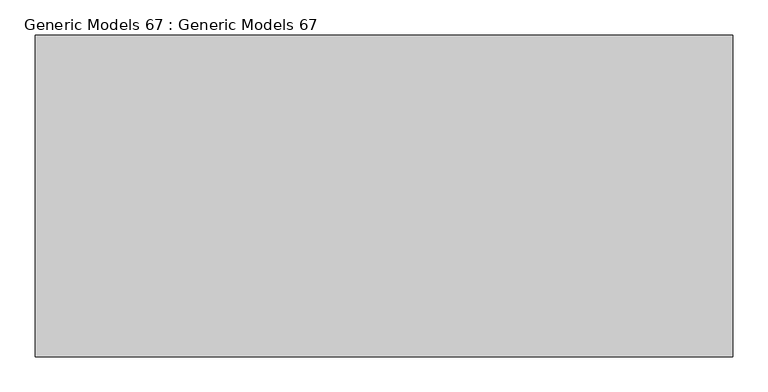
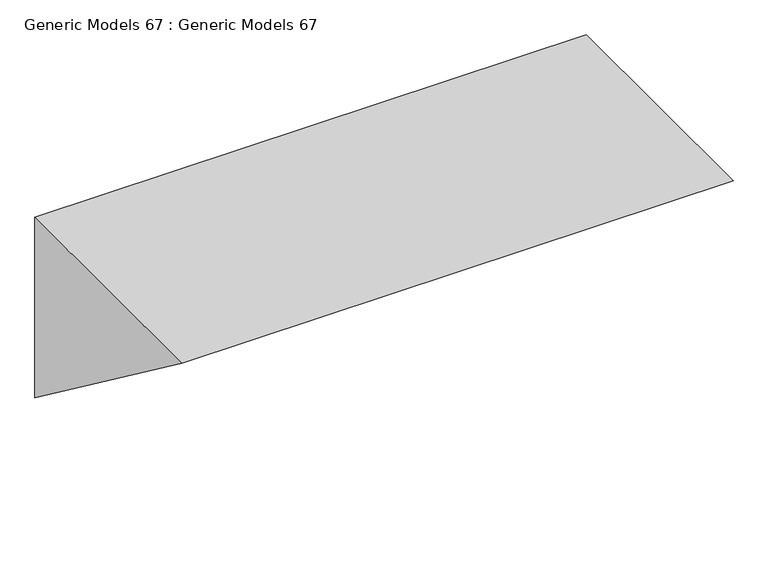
"""IFC4 building model written with IfcOpenShell, lengths in millimetres: proxy geometry, Generic Models 67 : Generic Models 67."""

import ifcopenshell
import ifcopenshell.guid

model = None  # the IFC model being written
_history = None  # IfcOwnerHistory: only IFC2X3 demands one
_inside = {}  # id of a spatial element -> (the spatial element, [elements in it])
_under = {}  # id of a project, library or spatial element -> (it, [spatial elements below it])
_declared = {}  # id of a project -> (the project, [libraries it declares])
_typed = {}  # id of a type object -> (the type object, [elements of that type])
_made_of = {}  # id of a material, layer set ... -> (it, [elements and type objects made of it])


def new_model(schema):
    """Start an empty IFC model of exactly this schema.

    Asked for "IFC4X3", IfcOpenShell would pick the latest addendum, in which some entities
    have other attributes; the version numbers below select the first issue.
    IFC2X3 requires an IfcOwnerHistory on every rooted entity: one is made here for all.
    """
    global model, _history
    if schema == "IFC4X3":
        model = ifcopenshell.file(schema_version=(4, 3, 0, 0))
    else:
        model = ifcopenshell.file(schema=schema)
    _inside.clear()
    _under.clear()
    _declared.clear()
    _typed.clear()
    _made_of.clear()
    _history = None
    if model.schema == "IFC2X3":
        org = make("IfcOrganization", Name="unknown")
        user = make(
            "IfcPersonAndOrganization",
            ThePerson=make("IfcPerson", FamilyName="unknown"),
            TheOrganization=org,
        )
        app = make(
            "IfcApplication",
            ApplicationDeveloper=org,
            Version="unknown",
            ApplicationFullName="unknown",
            ApplicationIdentifier="unknown",
        )
        _history = make(
            "IfcOwnerHistory",
            OwningUser=user,
            OwningApplication=app,
            ChangeAction="ADDED",
            CreationDate=0,
        )
    return model


def make(cls, **values):
    """One entity of the class cls with the attributes given. An attribute that is None is left unset."""
    return model.create_entity(
        cls, **{name: value for name, value in values.items() if value is not None}
    )


def rooted(cls, **values):
    """An entity with a GlobalId (a new one), such as an element, a storey or a relation."""
    return make(cls, GlobalId=ifcopenshell.guid.new(), OwnerHistory=_history, **values)


def si_unit(unit_type, name, prefix=None):
    """IfcSIUnit, for example si_unit("LENGTHUNIT", "METRE", prefix="MILLI")."""
    return make("IfcSIUnit", UnitType=unit_type, Prefix=prefix, Name=name)


def assignment(units):
    """IfcUnitAssignment: the units of a project."""
    return None if units is None else make("IfcUnitAssignment", Units=units)


def point(xyz):
    """IfcCartesianPoint."""
    return None if xyz is None else make("IfcCartesianPoint", Coordinates=xyz)


def direction(xyz):
    """IfcDirection."""
    return None if xyz is None else make("IfcDirection", DirectionRatios=xyz)


def frame(location, z_axis=None, x_axis=None):
    """IfcAxis2Placement3D, a coordinate frame: its origin and axes. An axis left out is left unset."""
    return make(
        "IfcAxis2Placement3D",
        Location=point(location),
        Axis=direction(z_axis),
        RefDirection=direction(x_axis),
    )


def origin():
    """The frame at (0, 0, 0) with its axes left unset."""
    return frame((0.0, 0.0, 0.0))


def place(relative_to, where):
    """IfcLocalPlacement: puts the frame where relative to a parent placement (None: the world)."""
    return make(
        "IfcLocalPlacement", PlacementRelTo=relative_to, RelativePlacement=where
    )


def context(
    kind, dimensions, precision=None, world=None, true_north=None, identifier=None
):
    """IfcGeometricRepresentationContext, for example the 3D "Model" context."""
    return make(
        "IfcGeometricRepresentationContext",
        ContextIdentifier=identifier,
        ContextType=kind,
        CoordinateSpaceDimension=dimensions,
        Precision=precision,
        WorldCoordinateSystem=world,
        TrueNorth=true_north,
    )


def project(units=None, contexts=None):
    """IfcProject with its units and contexts."""
    return rooted(
        "IfcProject",
        Name="project",
        RepresentationContexts=contexts,
        UnitsInContext=assignment(units),
    )


def spatial(cls, under=None, at=None, **own):
    """A site, building, storey or space (cls), placed at a placement, below another one or the project."""
    s = rooted(cls, ObjectPlacement=at, **own)
    if under is not None:
        _under.setdefault(under.id(), (under, []))[1].append(s)
    return s


def polyline(points):
    """IfcPolyline through the points."""
    return make("IfcPolyline", Points=[point(p) for p in points])


def outline(outer, holes=None, kind="AREA"):
    """IfcArbitraryClosedProfileDef: a profile drawn as a closed curve; with holes, ...WithVoids."""
    if holes is None:
        return make("IfcArbitraryClosedProfileDef", ProfileType=kind, OuterCurve=outer)
    return make(
        "IfcArbitraryProfileDefWithVoids",
        ProfileType=kind,
        OuterCurve=outer,
        InnerCurves=holes,
    )


def extrude(swept, where, along, depth):
    """IfcExtrudedAreaSolid: the profile swept, set in the frame where, extruded along a direction by depth."""
    return make(
        "IfcExtrudedAreaSolid",
        SweptArea=swept,
        Position=where,
        ExtrudedDirection=direction(along),
        Depth=depth,
    )


def shape(context_of_items, identifier, shape_type, items):
    """IfcShapeRepresentation: the items that make up one representation, for example the "Body"."""
    return make(
        "IfcShapeRepresentation",
        ContextOfItems=context_of_items,
        RepresentationIdentifier=identifier,
        RepresentationType=shape_type,
        Items=items,
    )


def source(mapping_origin, context_of_items, identifier, shape_type, items):
    """IfcRepresentationMap: a shape defined once, which mapped items show again and again."""
    return make(
        "IfcRepresentationMap",
        MappingOrigin=mapping_origin,
        MappedRepresentation=shape(context_of_items, identifier, shape_type, items),
    )


def transform(
    local_origin,
    x_axis=None,
    y_axis=None,
    z_axis=None,
    scale=None,
    scale2=None,
    scale3=None,
    uniform=True,
):
    """IfcCartesianTransformationOperator3D, or its non-uniform kind. x_axis, y_axis, z_axis: its Axis1, 2, 3."""
    if uniform:
        return make(
            "IfcCartesianTransformationOperator3D",
            Axis1=direction(x_axis),
            Axis2=direction(y_axis),
            LocalOrigin=point(local_origin),
            Scale=scale,
            Axis3=direction(z_axis),
        )
    return make(
        "IfcCartesianTransformationOperator3DnonUniform",
        Axis1=direction(x_axis),
        Axis2=direction(y_axis),
        LocalOrigin=point(local_origin),
        Scale=scale,
        Axis3=direction(z_axis),
        Scale2=scale2,
        Scale3=scale3,
    )


def mapped(mapping_source, mapping_target):
    """IfcMappedItem: shows the shape of a source again, moved by a transform."""
    return make(
        "IfcMappedItem", MappingSource=mapping_source, MappingTarget=mapping_target
    )


def made_of(thing, what):
    """Note that an element or type object is made of a material, layer set ...; save() writes the relation."""
    if what is not None:
        _made_of.setdefault(what.id(), (what, []))[1].append(thing)
    return thing


def element(
    cls,
    number,
    at=None,
    inside=None,
    cuts=None,
    type_object=None,
    material=None,
    context=None,
    identifier="Body",
    shape_type=None,
    held_by="IfcProductDefinitionShape",
    body=None,
    shapes=None,
    **own,
):
    """One element of the class cls, such as IfcWall. Its Tag is "e" and its number.

    at: its placement. inside: the storey or other place that contains it. cuts: it is an
    opening in that element (IfcRelVoidsElement). A single representation is given by context,
    identifier, shape_type and body (its items); several are given by shapes. held_by: the class
    of the entity that holds the representations. save() writes the other relations.
    """
    e = rooted(cls, Tag="e%d" % number, ObjectPlacement=at, **own)
    if body is not None:
        shapes = [shape(context, identifier, shape_type, body)]
    if shapes is not None:
        e.Representation = make(held_by, Representations=shapes)
    if inside is not None:
        _inside.setdefault(inside.id(), (inside, []))[1].append(e)
    if cuts is not None:
        rooted(
            "IfcRelVoidsElement", RelatingBuildingElement=cuts, RelatedOpeningElement=e
        )
    if type_object is not None:
        _typed.setdefault(type_object.id(), (type_object, []))[1].append(e)
    return made_of(e, material)


def aggregate(whole, parts):
    """IfcRelAggregates: a whole, such as a stair, and the parts it consists of."""
    return rooted("IfcRelAggregates", RelatingObject=whole, RelatedObjects=parts)


def save(model, path):
    """Write the relations noted so far, then the file.

    IfcRelAggregates (storeys below a building ...), IfcRelContainedInSpatialStructure (elements
    in a storey), IfcRelDefinesByType, IfcRelAssociatesMaterial and IfcRelDeclares: one each for
    every whole, place, type object, material and project.
    """
    for whole, parts in _under.values():
        aggregate(whole, parts)
    for where, things in _inside.values():
        rooted(
            "IfcRelContainedInSpatialStructure",
            RelatedElements=things,
            RelatingStructure=where,
        )
    for kind, things in _typed.values():
        rooted("IfcRelDefinesByType", RelatedObjects=things, RelatingType=kind)
    for what, things in _made_of.values():
        rooted("IfcRelAssociatesMaterial", RelatedObjects=things, RelatingMaterial=what)
    for by, libraries in _declared.values():
        rooted("IfcRelDeclares", RelatingContext=by, RelatedDefinitions=libraries)
    model.write(path)


def generic_models_67_generic_models_67_35788e7a(model_context):
    return source(origin(), model_context, "Body", "SweptSolid", [
        extrude(outline(polyline([(3721.1, 2908.3), (3721.1, 2565.4), (3263.9, 2908.3), (3721.1, 2908.3)])), frame((4102.1, 0.0, 0.0), z_axis=(1.0, 0.0, 0.0), x_axis=(0.0, 1.0, 0.0)), (0.0, 0.0, 1.0), 990.6),
    ])


if __name__ == "__main__":
    model = new_model("IFC4")
    model_context = context("Model", 3, world=origin())
    ifc_project = project(units=[si_unit("LENGTHUNIT", "METRE", prefix="MILLI")], contexts=[model_context])
    site = spatial("IfcSite", under=ifc_project)
    building = spatial("IfcBuilding", under=site)
    placement = place(None, origin())
    generic_models_67_generic_models_67_shape = generic_models_67_generic_models_67_35788e7a(model_context)
    element("IfcBuildingElementProxy", 1, Name="Generic Models 67 : Generic Models 67", ObjectType="Generic Models 67 : Generic Models 67", at=placement, inside=building, context=model_context, shape_type="MappedRepresentation", body=[
        mapped(generic_models_67_generic_models_67_shape, transform((0.0, 0.0, 0.0), x_axis=(1.0, 0.0, 0.0), y_axis=(0.0, 1.0, 0.0), z_axis=(0.0, 0.0, 1.0))),
    ])
    save(model, "model.ifc")
